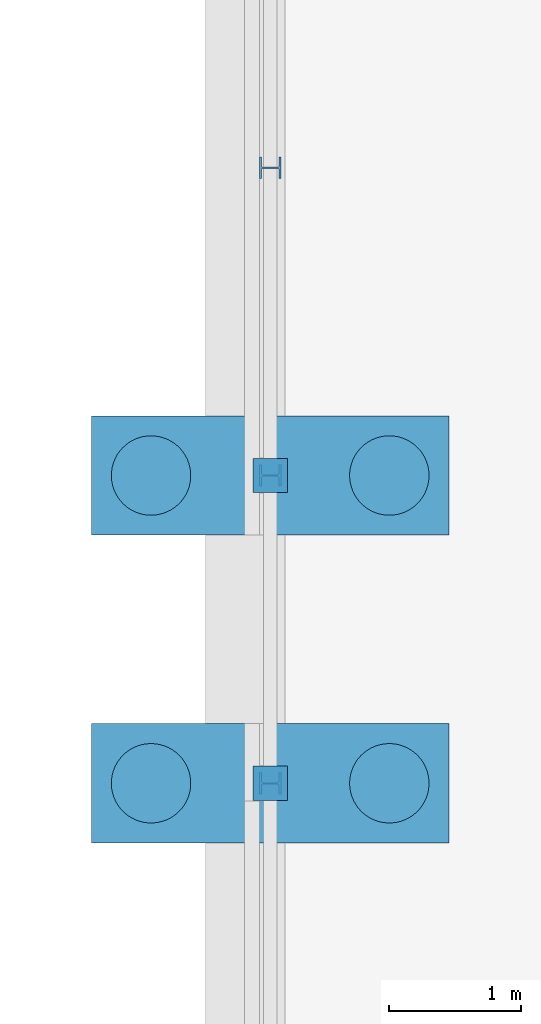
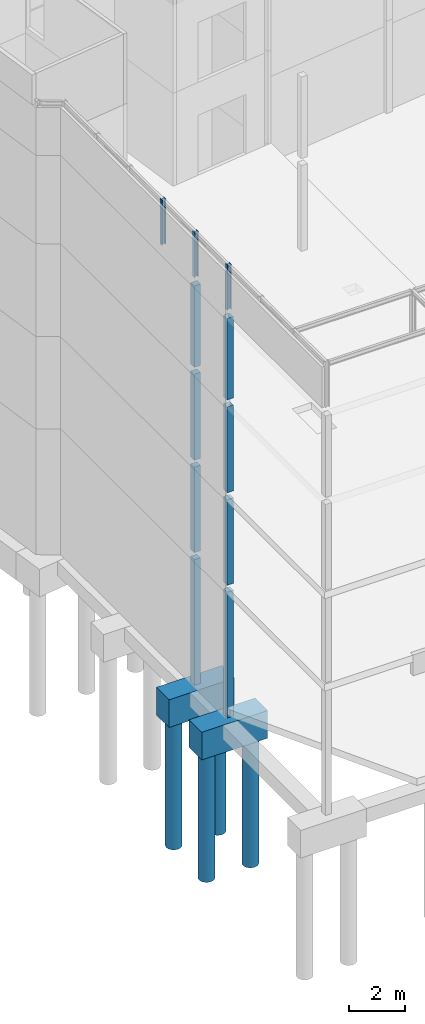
# One storey, part 4 of 82: 17 columns.
"""IFC2X3 building model written with IfcOpenShell, lengths in millimetres."""

from ifc_helpers import new_model, si_unit, frame, frame_2d, origin_with_axes, place, context, subcontext, project, spatial, rectangle, circle, i_section, extrude, material, type_object, element, save


model = new_model("IFC2X3")

# Units and contexts
model_context = context("Model", 3, precision=1e-05, world=origin_with_axes())
body_context = subcontext(model_context, "Body", "Model", "MODEL_VIEW")
ifc_project = project(units=[si_unit("LENGTHUNIT", "METRE", prefix="MILLI"), si_unit("AREAUNIT", "SQUARE_METRE"), si_unit("VOLUMEUNIT", "CUBIC_METRE"), si_unit("MASSUNIT", "GRAM", prefix="KILO"), si_unit("TIMEUNIT", "SECOND"), si_unit("PLANEANGLEUNIT", "RADIAN"), si_unit("SOLIDANGLEUNIT", "STERADIAN"), si_unit("THERMODYNAMICTEMPERATUREUNIT", "DEGREE_CELSIUS"), si_unit("LUMINOUSINTENSITYUNIT", "LUMEN")], contexts=[model_context])

# Site, building, storey
site_placement = place(None, origin_with_axes())
site = spatial("IfcSite", under=ifc_project, at=site_placement, Name="Undefined", CompositionType="ELEMENT")
building_placement = place(site_placement, origin_with_axes())
building = spatial("IfcBuilding", under=site, at=building_placement, Name="Undefined", CompositionType="ELEMENT")
storey_placement = place(building_placement, origin_with_axes())
storey = spatial("IfcBuildingStorey", under=building, at=storey_placement, Name="Undefined", CompositionType="ELEMENT", Elevation=0.0)

# Columns
ifc_material_1 = material(Name="CONCRETE/C25/30")
column_type_1 = type_object("IfcColumnType", Name="260*260", PredefinedType="NOTDEFINED")
column_1_placement = place(storey_placement, frame((-1.55559973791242e-08, 9300.00373080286, 13330.0), z_axis=(0.0, 0.0, 1.0), x_axis=(1.0, 0.0, 0.0)))
element("IfcColumn", 1, at=column_1_placement, inside=storey, type_object=column_type_1, material=ifc_material_1, Name="POTEAU", ObjectType="260*260", context=body_context, shape_type="SweptSolid", body=[
    extrude(rectangle(XDim=260.0, YDim=260.0, at=frame_2d((5.17284206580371e-08, 4.49290382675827e-10), x_axis=(1.0, 0.0))), frame((0.0, 0.0, 3529.99999999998), z_axis=(0.0, -6.50000002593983e-08, -0.999999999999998), x_axis=(-2.77555756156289e-17, -1.0, 0.0)), (0.0, 0.0, 1.0), 3530.0),
])
column_2_placement = place(storey_placement, frame((-1.138323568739e-08, 6975.00373080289, 13330.0004882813), z_axis=(0.0, 0.0, 1.0), x_axis=(1.0, 0.0, 0.0)))
element("IfcColumn", 2, at=column_2_placement, inside=storey, type_object=column_type_1, material=ifc_material_1, Name="POTEAU", ObjectType="260*260", context=body_context, shape_type="SweptSolid", body=[
    extrude(rectangle(XDim=260.0, YDim=260.0, at=frame_2d((5.17284206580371e-08, 4.49290382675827e-10), x_axis=(1.0, 0.0))), frame((0.0, 0.0, 3529.99951171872), z_axis=(0.0, -6.50000002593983e-08, -0.999999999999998), x_axis=(-2.77555756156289e-17, -1.0, 0.0)), (0.0, 0.0, 1.0), 3530.0),
])
for number, where, z_axis, x_axis, name in (
    (3, (-1.55559973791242e-08, 9300.00373080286, 9305.0), (0.0, 0.0, 1.0), (1.0, 0.0, 0.0), "POTEAU"),
    (4, (-1.138323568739e-08, 6975.00373080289, 9305.0), (0.0, 0.0, 1.0), (1.0, 0.0, 0.0), "POTEAU"),
):
    element("IfcColumn", number, at=place(storey_placement, frame(where, z_axis=z_axis, x_axis=x_axis)), inside=storey, type_object=column_type_1, material=ifc_material_1, Name=name, ObjectType="260*260", context=body_context, shape_type="SweptSolid", body=[
        extrude(rectangle(XDim=260.0, YDim=260.0, at=frame_2d((5.17284206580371e-08, 4.49290382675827e-10), x_axis=(1.0, 0.0))), frame((0.0, 0.0, 3725.0), z_axis=(0.0, -6.50000002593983e-08, -0.999999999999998), x_axis=(-2.77555756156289e-17, -1.0, 0.0)), (0.0, 0.0, 1.0), 3725.0),
    ])
for number, where, z_axis, x_axis, name in (
    (5, (-1.55450834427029e-08, 9300.00373080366, 5300.0), (0.0, 0.0, 1.0), (1.0, 0.0, 0.0), "POTEAU"),
    (6, (-1.13686837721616e-08, 6975.00373080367, 5300.0), (0.0, 0.0, 1.0), (1.0, 0.0, 0.0), "POTEAU"),
):
    element("IfcColumn", number, at=place(storey_placement, frame(where, z_axis=z_axis, x_axis=x_axis)), inside=storey, type_object=column_type_1, material=ifc_material_1, Name=name, ObjectType="260*260", context=body_context, shape_type="SweptSolid", body=[
        extrude(rectangle(XDim=260.0, YDim=260.0, at=frame_2d((5.17284206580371e-08, 4.49290382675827e-10), x_axis=(1.0, 0.0))), frame((0.0, 0.0, 3705.00000000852), z_axis=(0.0, -6.50000002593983e-08, -0.999999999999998), x_axis=(-2.77555756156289e-17, -1.0, 0.0)), (0.0, 0.0, 1.0), 3705.0),
    ])
for number, where, z_axis, x_axis, name in (
    (7, (-1.55559973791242e-08, 9300.00373080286, -449.999511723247), (0.0, 0.0, 1.0), (1.0, 0.0, 0.0), "POTEAU"),
    (8, (-1.138323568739e-08, 6975.00373080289, -449.999511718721), (0.0, 0.0, 1.0), (1.0, 0.0, 0.0), "POTEAU"),
):
    element("IfcColumn", number, at=place(storey_placement, frame(where, z_axis=z_axis, x_axis=x_axis)), inside=storey, type_object=column_type_1, material=ifc_material_1, Name=name, ObjectType="260*260", context=body_context, shape_type="SweptSolid", body=[
        extrude(rectangle(XDim=260.0, YDim=260.0, at=frame_2d((5.17284206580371e-08, 4.49290382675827e-10), x_axis=(1.0, 0.0))), frame((0.0, 0.0, 5449.9995117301), z_axis=(0.0, -6.50000002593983e-08, -0.999999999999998), x_axis=(-2.77555756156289e-17, -1.0, 0.0)), (0.0, 0.0, 1.0), 5450.0),
    ])
ifc_material_2 = material(Name="STEEL/S275JR")
column_type_2 = type_object("IfcColumnType", Name="HEB160", PredefinedType="NOTDEFINED")
for number, where, z_axis, x_axis, name in (
    (9, (1.82361327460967e-06, 9300.00000010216, 17160.0), (0.0, 0.0, 1.0), (1.0, 0.0, 0.0), "POTEAU"),
    (10, (1.1670017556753e-06, 6975.00000010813, 17160.0), (0.0, 0.0, 1.0), (1.0, 0.0, 0.0), "POTEAU"),
    (11, (5.86343958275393e-07, 11625.000137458, 17160.0), (0.0, 0.0, 1.0), (1.0, 0.0, 0.0), "POTEAU"),
):
    element("IfcColumn", number, at=place(storey_placement, frame(where, z_axis=z_axis, x_axis=x_axis)), inside=storey, type_object=column_type_2, material=ifc_material_2, Name=name, ObjectType="HEB160", context=body_context, shape_type="SweptSolid", body=[
        extrude(i_section(OverallWidth=160.0, OverallDepth=160.0, WebThickness=8.0, FlangeThickness=13.0, FilletRadius=15.0, at=frame_2d((5.17284206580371e-08, 4.49290382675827e-10), x_axis=(1.0, 0.0))), frame((0.0, 0.0, 1965.0), z_axis=(0.0, -6.50000002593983e-08, -0.999999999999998), x_axis=(-2.77555756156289e-17, -1.0, 0.0)), (0.0, 0.0, 1.0), 1965.0),
    ])
ifc_material_3 = material(Name="CONCRETE/C30/37")
column_type_3 = type_object("IfcColumnType", Name="2700*900", PredefinedType="NOTDEFINED")
for number, where, z_axis, x_axis, name in (
    (12, (-1.14087015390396e-08, 6975.00373080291, -1650.0), (0.0, 0.0, 1.0), (1.0, 0.0, 0.0), "SEMELLE"),
    (13, (1.97724148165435e-08, 9300.00000001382, -1650.0), (0.0, 0.0, 1.0), (1.0, 0.0, 0.0), "SEMELLE"),
):
    element("IfcColumn", number, at=place(storey_placement, frame(where, z_axis=z_axis, x_axis=x_axis)), inside=storey, type_object=column_type_3, material=ifc_material_3, Name=name, ObjectType="2700*900", context=body_context, shape_type="SweptSolid", body=[
        extrude(rectangle(XDim=900.0, YDim=2700.0, at=frame_2d((5.17284206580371e-08, 4.49290382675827e-10), x_axis=(1.0, 0.0))), frame((0.0, 0.0, 1200.0), z_axis=(0.0, -6.50000002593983e-08, -0.999999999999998), x_axis=(-2.77555756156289e-17, -1.0, 0.0)), (0.0, 0.0, 1.0), 1200.0),
    ])
column_type_4 = type_object("IfcColumnType", Name="D600", PredefinedType="NOTDEFINED")
for number, where, z_axis, x_axis in (
    (14, (-899.999999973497, 6975.00373079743, -7175.0), (0.0, 0.0, 1.0), (1.0, 0.0, 0.0)),
    (15, (900.000000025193, 6975.00373079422, -7175.0), (0.0, 0.0, 1.0), (1.0, 0.0, 0.0)),
    (16, (-899.999999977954, 9299.99999999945, -7175.0), (0.0, 0.0, 1.0), (1.0, 0.0, 0.0)),
    (17, (900.00000002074, 9299.99999999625, -7175.0), (0.0, 0.0, 1.0), (1.0, 0.0, 0.0)),
):
    element("IfcColumn", number, at=place(storey_placement, frame(where, z_axis=z_axis, x_axis=x_axis)), inside=storey, type_object=column_type_4, material=ifc_material_1, Name="PIEU", ObjectType="D600", context=body_context, shape_type="SweptSolid", body=[
        extrude(circle(Radius=300.0, at=frame_2d((5.17284206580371e-08, 4.49290382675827e-10), x_axis=(1.0, 0.0))), frame((0.0, 0.0, 5750.0), z_axis=(0.0, -6.50000002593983e-08, -0.999999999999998), x_axis=(0.0, 1.0, 0.0)), (0.0, 0.0, 1.0), 5750.0),
    ])

save(model, "model.ifc")
